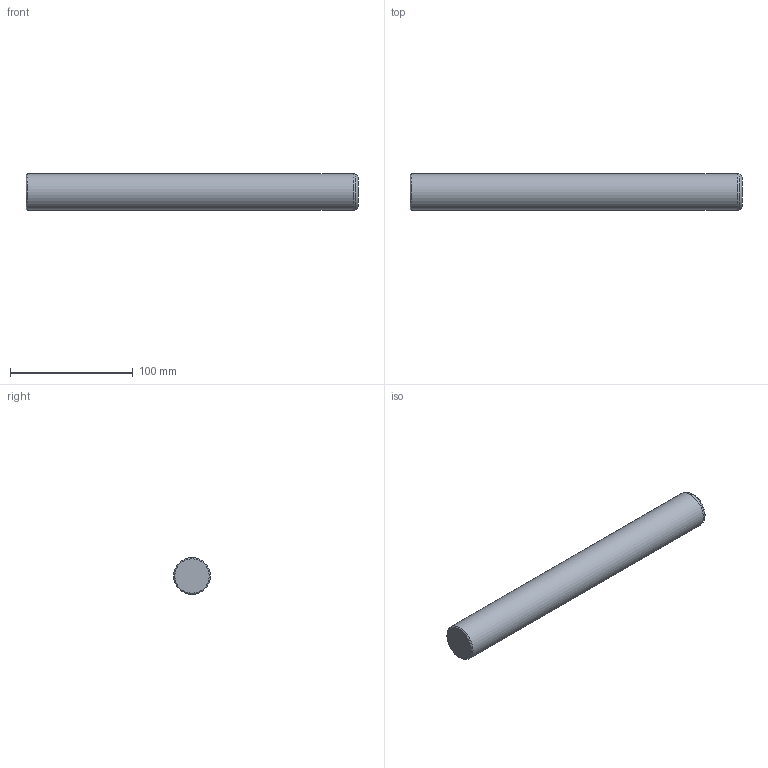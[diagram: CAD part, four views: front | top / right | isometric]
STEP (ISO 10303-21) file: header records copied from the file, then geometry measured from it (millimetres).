
FILE_DESCRIPTION(/* description */ ('Impex Ready, www.impex-ready.pl'),/* implementation_level */ '2;1');
FILE_NAME(/* name */ 'C:\Users\VIKKY\Nextcloud\SM\projekt 10 - części na stronę internetową\Pliki_3D_new\256 CIS Słup\256 CIS_STEP\CIS30270.ipt.step',/* time_stamp */ '2021-12-20T12:43:39+01:00',/* author */ ('SM'),/* organization */ (''),/* preprocessor_version */ 'ST-DEVELOPER v18.1',/* originating_system */ 'Autodesk Inventor 2021',/* authorisation */ '');
FILE_SCHEMA (('AUTOMOTIVE_DESIGN { 1 0 10303 214 3 1 1 }'));
Length unit declared in the file: millimetre
Products named in the file (1): CIS30270
Bounding box: 270 x 30 x 30 mm (x, y, z)
Volume: 190530.6 mm3; surface area: 26646.8 mm2
Topology: 1 solids, 1 shells, 6 faces, 12 edges, 8 vertices
Faces by surface type: cone 2, plane 2, torus 1, cylinder 1
Full cylindrical faces by diameter (mm): 30 x1
Entity records: 239 total; most frequent: DIRECTION 35, CARTESIAN_POINT 27, ORIENTED_EDGE 24, AXIS2_PLACEMENT_3D 16, EDGE_CURVE 12, CIRCLE 9, VERTEX_POINT 8, STYLED_ITEM 7
